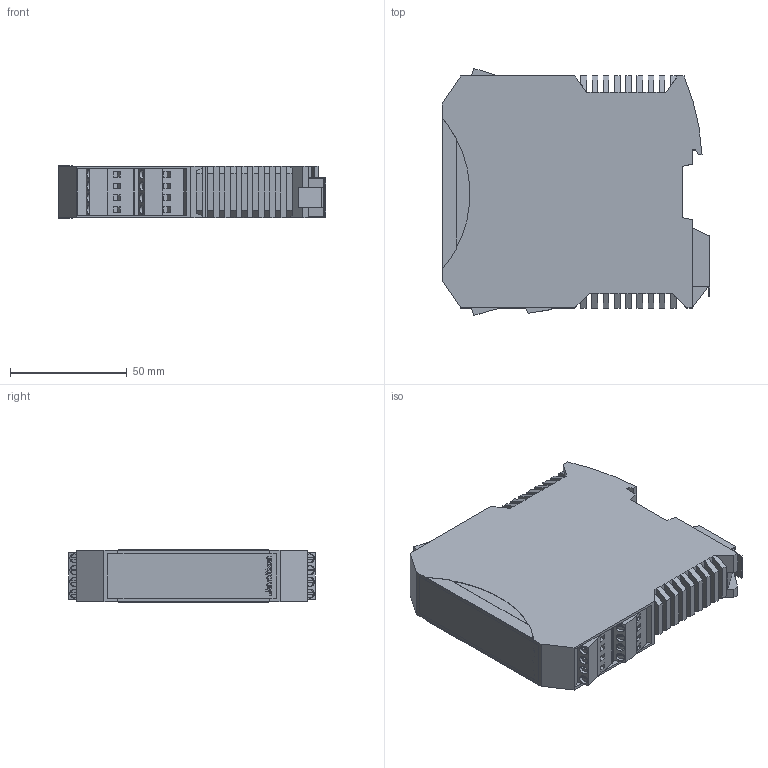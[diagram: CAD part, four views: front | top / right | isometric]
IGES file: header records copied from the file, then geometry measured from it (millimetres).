
Global section: file name: 15.03.613-Rogo Trans; native system: Autodesk Inventor 2020; preprocessor: unknown; date: 20201124.161715; units: millimetre
Bounding box: 114.9 x 105.95 x 22.6 mm (x, y, z)
Volume: 225251 mm3; surface area: 50251.1 mm2
Topology: 17 solids, 18 shells, 700 faces, 1739 edges, 1115 vertices
Faces by surface type: bspline 700
